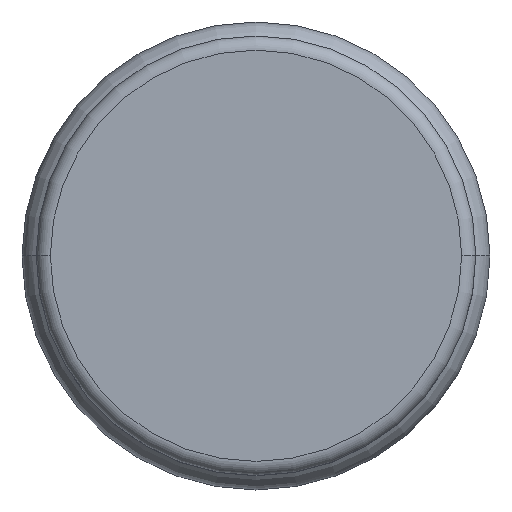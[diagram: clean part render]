
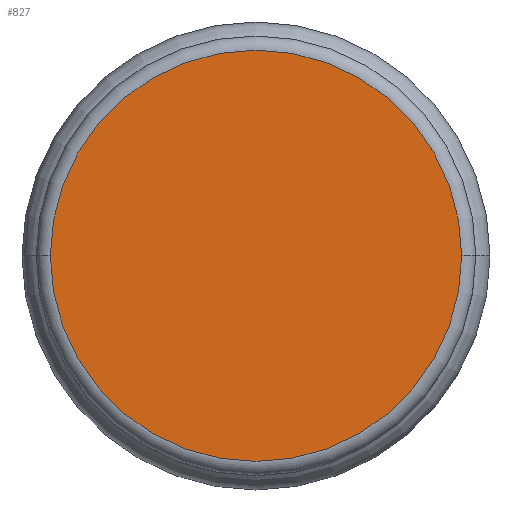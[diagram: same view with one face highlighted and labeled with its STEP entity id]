
A CAD part, top view. The second image highlights one B-rep face of the part: STEP entity #827.
In plain terms, the highlighted planar face has unit normal (0, 0, 1).
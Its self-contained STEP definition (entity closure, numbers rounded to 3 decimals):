
#57 = CARTESIAN_POINT ( 'NONE',  ( 0., 0., 70. ) ) ;
#62 = AXIS2_PLACEMENT_3D ( 'NONE', #57, #318, #515 ) ;
#72 = CIRCLE ( 'NONE', #62, 14.5 ) ;
#77 = EDGE_CURVE ( 'NONE', #791, #340, #580, .T. ) ;
#101 = ORIENTED_EDGE ( 'NONE', *, *, #77, .T. ) ;
#129 = DIRECTION ( 'NONE',  ( 1., 0., 0. ) ) ;
#149 = EDGE_CURVE ( 'NONE', #340, #791, #72, .T. ) ;
#188 = FACE_OUTER_BOUND ( 'NONE', #423, .T. ) ;
#209 = AXIS2_PLACEMENT_3D ( 'NONE', #236, #800, #426 ) ;
#236 = CARTESIAN_POINT ( 'NONE',  ( 0., 0., 70. ) ) ;
#318 = DIRECTION ( 'NONE',  ( 0., 0., 1. ) ) ;
#340 = VERTEX_POINT ( 'NONE', #571 ) ;
#342 = ORIENTED_EDGE ( 'NONE', *, *, #149, .T. ) ;
#423 = EDGE_LOOP ( 'NONE', ( #101, #342 ) ) ;
#426 = DIRECTION ( 'NONE',  ( 1., 0., 0. ) ) ;
#515 = DIRECTION ( 'NONE',  ( 1., 0., 0. ) ) ;
#518 = CARTESIAN_POINT ( 'NONE',  ( 0., 0., 70. ) ) ;
#526 = AXIS2_PLACEMENT_3D ( 'NONE', #518, #826, #129 ) ;
#527 = CARTESIAN_POINT ( 'NONE',  ( 14.5, 0., 70. ) ) ;
#571 = CARTESIAN_POINT ( 'NONE',  ( -14.5, 0., 70. ) ) ;
#578 = PLANE ( 'NONE',  #526 ) ;
#580 = CIRCLE ( 'NONE', #209, 14.5 ) ;
#791 = VERTEX_POINT ( 'NONE', #527 ) ;
#800 = DIRECTION ( 'NONE',  ( 0., 0., 1. ) ) ;
#826 = DIRECTION ( 'NONE',  ( 0., 0., 1. ) ) ;
#827 = ADVANCED_FACE ( 'NONE', ( #188 ), #578, .T. ) ;
